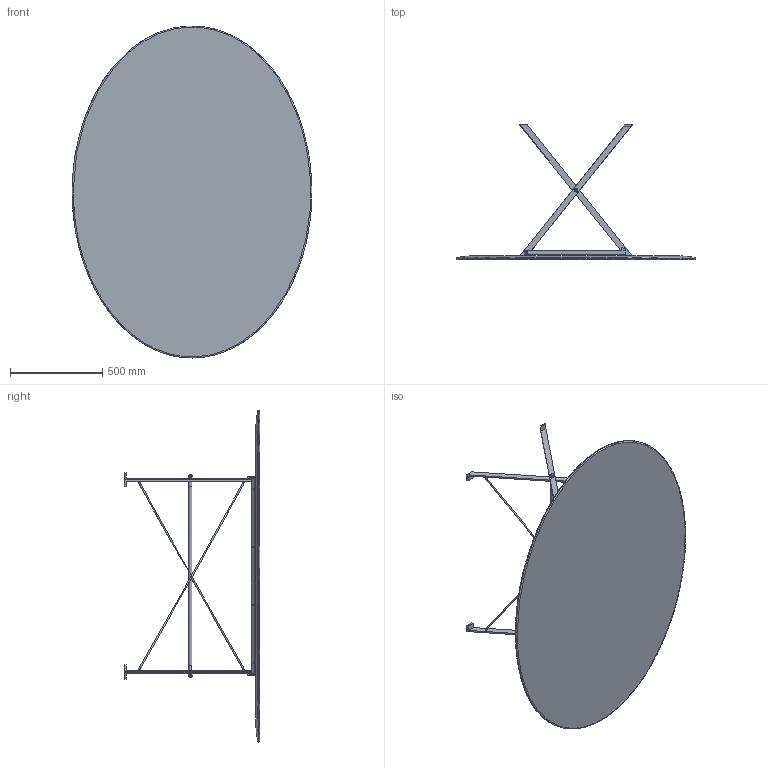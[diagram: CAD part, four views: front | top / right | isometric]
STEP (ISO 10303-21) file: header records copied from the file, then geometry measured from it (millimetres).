
FILE_DESCRIPTION(/* description */ (''),/* implementation_level */ '2;1');
FILE_NAME(/* name */ '1-001071-CAD-00078315.stp',/* time_stamp */ '2026-01-22T17:55:12+01:00',/* author */ ('rbianchi'),/* organization */ (''),/* preprocessor_version */ 'ST-DEVELOPER v19.2',/* originating_system */ 'Autodesk Inventor 2023',/* authorisation */ '');
FILE_SCHEMA (('AUTOMOTIVE_DESIGN { 1 0 10303 214 3 1 1 }'));
Products named in the file (18): Assieme-Cavalletto-Piccolo; Top-Cavalletto-PiccoloLCD; 3-005391-CAD-00078299; GambeInterne-Piano-Cavalletto-PiccoloLCD; Rondella-Tubo-Centrale-Cavalletto-PiccoloLCD; Tubo-Centrale-Cavalletto-PiccoloLCD; Perno-Tubo-Centrale-Cavalletto-PiccoloLCD; Dado-esagonale-con-calotta-M12; Rondella-piccola-elemento-aggancio-Cavalletto-PiccoloLCD; Elemento-aggancio-Cavalletto-PiccoloLCD; Elemento2-aggancio-Cavalletto-PiccoloLCD; Feltrino-Cavalletto-PiccoloLCD; GambeEsterne-Piano-Cavalletto-PiccoloLCD; Bussola-M6x12; M6x14-ViteTComb-M6003429; Logo-Azucena-Cavalletto-PiccoloLCD; Dado-esagonale-con-calotta-M6; Vite-M4
Assembly tree (47 placements, depth 2):
  Assieme-Cavalletto-Piccolo
    Top-Cavalletto-PiccoloLCD
    3-005391-CAD-00078299  x2
    GambeInterne-Piano-Cavalletto-PiccoloLCD
    Rondella-Tubo-Centrale-Cavalletto-PiccoloLCD  x2
    Tubo-Centrale-Cavalletto-PiccoloLCD
    Perno-Tubo-Centrale-Cavalletto-PiccoloLCD  x2
    Dado-esagonale-con-calotta-M12  x2
    Rondella-piccola-elemento-aggancio-Cavalletto-PiccoloLCD  x2
    Dado-esagonale-con-calotta-M6  x2
    Elemento-aggancio-Cavalletto-PiccoloLCD
    Elemento2-aggancio-Cavalletto-PiccoloLCD
    Feltrino-Cavalletto-PiccoloLCD  x4
    GambeEsterne-Piano-Cavalletto-PiccoloLCD
    Bussola-M6x12  x8
    M6x14-ViteTComb-M6003429  x8
    Logo-Azucena-Cavalletto-PiccoloLCD
    Vite-M4  x8
Bounding box: 1299.92 x 733 x 1799.76 mm (x, y, z)
Volume: 37159820.1 mm3; surface area: 4584511.1 mm2
Topology: 100 solids, 108 shells, 1681 faces, 5646 edges, 5609 vertices
Faces by surface type: plane 1021, bspline 403, cylinder 171, cone 72, sphere 10, torus 4
Full cylindrical faces by diameter (mm): 3.8 x8, 4 x16, 5 x8, 6 x22, 7 x2, 8 x28, 9.739 x2, 10 x8, 12 x6, 13 x2, 14 x14, 16 x1, 18 x2, 22 x2, 30 x4
Entity records: 53511 total; most frequent: CARTESIAN_POINT 22108, ORIENTED_EDGE 6138, DIRECTION 4294, EDGE_CURVE 3070, VERTEX_POINT 2026, LINE 2024, VECTOR 2024, B_SPLINE_CURVE_WITH_KNOTS 1516
